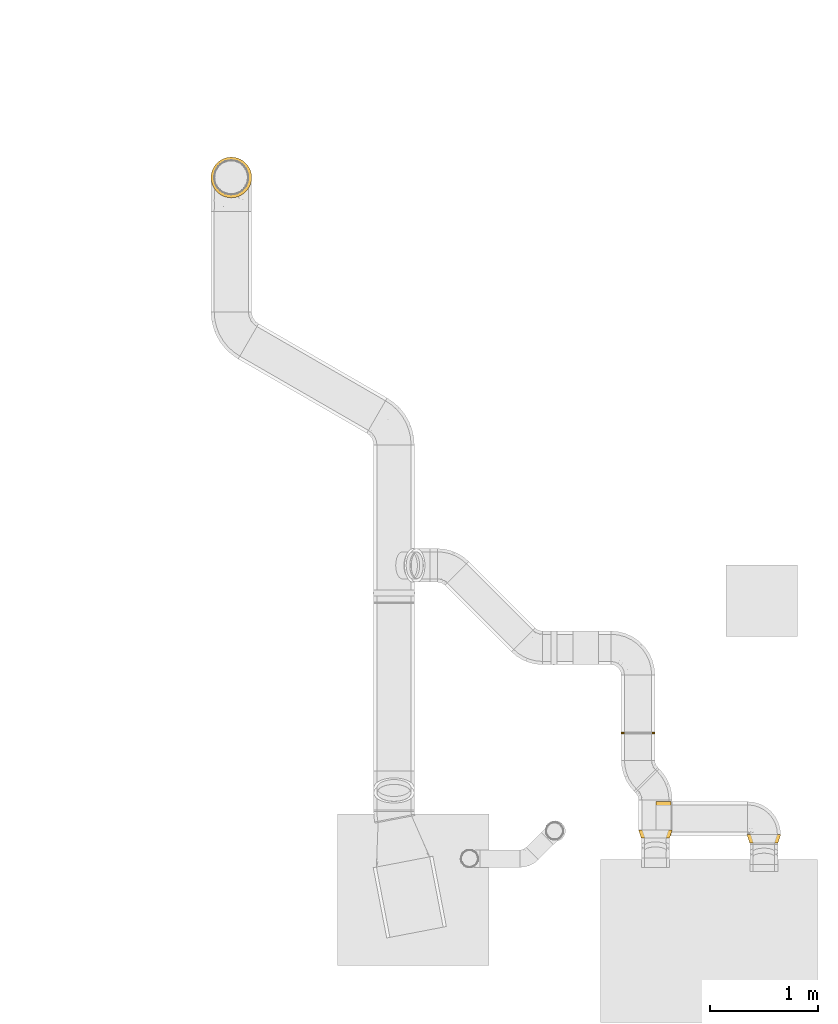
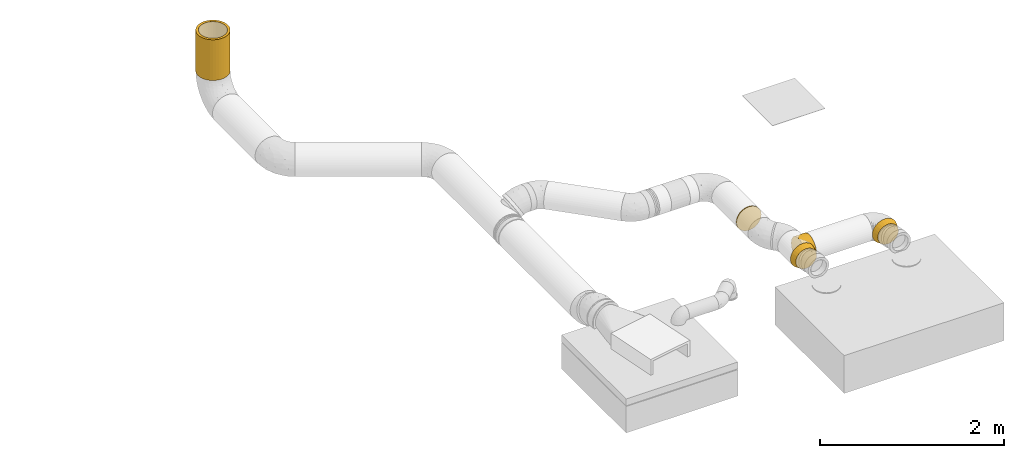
# One storey, part 7 of 21: 5 coverings.
"""IFC2X3 building model written with IfcOpenShell, lengths in millimetres."""

from ifc_helpers import new_model, entity, si_unit, converted_unit, derived_unit, direction, frame, origin_with_axes, place, context, subcontext, project, spatial, open_shell, faceted_brep, surface_model, source, transform, mapped, element, save


model = new_model("IFC2X3")

# Units and contexts
model_context = context("Model", 3, precision=0.01, world=frame((0.0, 4.29681676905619e-09, 0.0)), true_north=direction((4.01073788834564e-13, 1.0)))
plan_context = context("Plan", 3, precision=0.01, world=frame((0.0, 4.29681676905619e-09, 0.0)), true_north=direction((4.01073788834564e-13, 1.0)))
body_context = subcontext(model_context, "Body", "Model", "MODEL_VIEW")
ifc_project = project(units=[converted_unit("PLANEANGLEUNIT", "DEGREE", entity("IfcPositiveLengthMeasure", 0.0174532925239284), si_unit("PLANEANGLEUNIT", "RADIAN"), dimensions=[0, 0, 0, 0, 0, 0, 0]), si_unit("AREAUNIT", "SQUARE_METRE"), si_unit("LENGTHUNIT", "METRE", prefix="MILLI"), si_unit("MASSUNIT", "GRAM", prefix="KILO"), si_unit("POWERUNIT", "WATT"), si_unit("PRESSUREUNIT", "PASCAL"), si_unit("FORCEUNIT", "NEWTON", prefix="KILO"), si_unit("ELECTRICVOLTAGEUNIT", "VOLT"), si_unit("ELECTRICCURRENTUNIT", "AMPERE"), si_unit("THERMODYNAMICTEMPERATUREUNIT", "DEGREE_CELSIUS"), si_unit("TIMEUNIT", "SECOND"), si_unit("VOLUMEUNIT", "CUBIC_METRE"), derived_unit("LINEARVELOCITYUNIT", [(si_unit("LENGTHUNIT", "METRE"), 1), (si_unit("TIMEUNIT", "SECOND"), -1)]), derived_unit("VOLUMETRICFLOWRATEUNIT", [(si_unit("VOLUMEUNIT", "CUBIC_METRE"), 1), (si_unit("TIMEUNIT", "SECOND"), -1)]), derived_unit("THERMALTRANSMITTANCEUNIT", [(si_unit("POWERUNIT", "WATT"), 1), (si_unit("THERMODYNAMICTEMPERATUREUNIT", "KELVIN"), -1), (si_unit("AREAUNIT", "SQUARE_METRE"), -1)]), derived_unit("SOUNDPRESSUREUNIT", [(si_unit("PRESSUREUNIT", "PASCAL"), 1)])], contexts=[model_context, plan_context])

# Site, building, storey
site_placement = place(None, frame((0.0, -4.29681676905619e-09, 0.0), z_axis=(0.0, 0.0, 1.0), x_axis=(1.0, 0.0, 0.0)))
site = spatial("IfcSite", under=ifc_project, at=site_placement, Name="ENGM", CompositionType="ELEMENT")
building_placement = place(site_placement, frame((0.0, 4.29681676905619e-09, 0.0), z_axis=(0.0, 0.0, 1.0), x_axis=(1.0, 0.0, 0.0)))
building = spatial("IfcBuilding", under=site, at=building_placement, Name="TI", CompositionType="ELEMENT")
storey_placement = place(building_placement, frame((0.0, 0.0, 210900.0), z_axis=(0.0, 0.0, 1.0), x_axis=(1.0, 0.0, 0.0)))
storey = spatial("IfcBuildingStorey", under=building, at=storey_placement, Name="Nivå F", CompositionType="ELEMENT", Elevation=210900.0)

# Coverings
shared_shape_1 = source(origin_with_axes(), body_context, "Body", "SurfaceModel", [
    surface_model("IfcShellBasedSurfaceModel", [(20.0, 0.0, 155.0), (20.0, -40.11695, 149.7185), (20.0, -77.5, 134.23394), (20.0, -109.60155, 109.60155), (20.0, -134.23394, 77.5), (20.0, -149.7185, 40.11695), (20.0, 40.11695, 149.7185), (20.0, 109.60155, 109.60155), (20.0, 77.5, 134.23394), (20.0, 134.23394, 77.5), (20.0, 155.0, 0.0), (20.0, 149.7185, 40.11695), (20.0, -77.5, -134.23394), (20.0, -134.23394, -77.5), (20.0, -109.60155, -109.60155), (20.0, 77.5, -134.23394), (20.0, 0.0, -155.0), (20.0, 40.11695, -149.7185), (20.0, -155.0, 0.0), (20.0, -40.11695, -149.7185), (20.0, -149.7185, -40.11695), (20.0, 134.23394, -77.5), (20.0, 109.60155, -109.60155), (20.0, 149.7185, -40.11695), (-118.904, -77.5, -134.23394), (-118.904, 0.0, -155.0), (-118.904, -40.11695, -149.7185), (-118.904, -149.7185, -40.11695), (-118.904, -109.60155, -109.60155), (-118.904, 77.5, -134.23394), (-118.904, 155.0, 0.0), (-118.904, -134.23394, -77.5), (-118.904, 40.11695, -149.7185), (-118.904, 134.23394, -77.5), (-118.904, 109.60155, -109.60155), (-118.904, 149.7185, -40.11695), (-118.904, -155.0, 0.0), (-118.904, -149.7185, 40.11695), (-118.904, -134.23394, 77.5), (-118.904, -109.60155, 109.60155), (-118.904, -77.5, 134.23394), (-118.904, -40.11695, 149.7185), (-118.904, 0.0, 155.0), (-118.904, 40.11695, 149.7185), (-118.904, 134.23394, 77.5), (-118.904, 149.7185, 40.11695), (-118.904, 109.60155, 109.60155), (-118.904, 77.5, 134.23394)], [open_shell([[[0, 1, 2]], [[3, 4, 5]], [[6, 7, 8]], [[7, 6, 9]], [[9, 10, 11]], [[12, 13, 14]], [[15, 16, 17]], [[9, 0, 2]], [[9, 2, 3]], [[9, 3, 5]], [[9, 6, 0]], [[5, 10, 9]], [[5, 18, 10]], [[19, 18, 20]], [[12, 20, 13]], [[12, 19, 20]], [[18, 19, 16]], [[21, 15, 22]], [[23, 10, 21]], [[21, 10, 15]], [[16, 15, 18]], [[10, 18, 15]], [[24, 25, 26]], [[27, 24, 28]], [[29, 24, 30]], [[27, 28, 31]], [[27, 30, 24]], [[25, 29, 32]], [[25, 24, 29]], [[29, 33, 34]], [[29, 30, 33]], [[33, 30, 35]], [[27, 36, 37]], [[37, 38, 39]], [[27, 39, 30]], [[40, 41, 42]], [[30, 39, 40]], [[43, 40, 42]], [[30, 44, 45]], [[30, 40, 44]], [[46, 43, 47]], [[43, 46, 44]], [[40, 43, 44]], [[39, 27, 37]], [[18, 5, 37]], [[36, 18, 37]], [[4, 38, 37]], [[38, 4, 3]], [[5, 4, 37]], [[3, 39, 38]], [[40, 2, 1]], [[41, 1, 0]], [[39, 2, 40]], [[40, 1, 41]], [[0, 42, 41]], [[2, 39, 3]], [[43, 6, 8]], [[47, 8, 7]], [[0, 6, 42]], [[42, 6, 43]], [[8, 47, 43]], [[7, 46, 47]], [[44, 9, 11]], [[45, 11, 10]], [[46, 9, 44]], [[44, 11, 45]], [[10, 30, 45]], [[9, 46, 7]], [[35, 23, 21]], [[33, 21, 22]], [[10, 23, 30]], [[30, 23, 35]], [[21, 33, 35]], [[22, 34, 33]], [[29, 15, 17]], [[32, 17, 16]], [[34, 15, 29]], [[29, 17, 32]], [[16, 25, 32]], [[15, 34, 22]], [[26, 19, 12]], [[24, 12, 14]], [[16, 19, 25]], [[25, 19, 26]], [[12, 24, 26]], [[14, 28, 24]], [[31, 13, 20]], [[27, 20, 18]], [[28, 13, 31]], [[31, 20, 27]], [[18, 36, 27]], [[13, 28, 14]]])]),
])
covering_1_placement = place(storey_placement, frame((609854.51365, 691192.49978, 2600.0), z_axis=(0.0, 0.0, -1.0), x_axis=(1.0, 0.0, 0.0)))
element("IfcCovering", 1, at=covering_1_placement, inside=storey, Name="B-EI60", PredefinedType="INSULATION", context=body_context, shape_type="MappedRepresentation", body=[
    mapped(shared_shape_1, transform((0.0, 0.0, 0.0), scale=1.0)),
])
shared_shape_2 = source(origin_with_axes(), body_context, "Body", "SurfaceModel", [
    surface_model("IfcShellBasedSurfaceModel", [(10.0, 77.5, -134.23394), (10.0, 0.0, -155.0), (10.0, 40.11695, -149.7185), (10.0, -77.5, -134.23394), (10.0, -40.11695, -149.7185), (10.0, -134.23394, -77.5), (10.0, -109.60155, -109.60155), (10.0, 149.7185, 40.11695), (10.0, 134.23394, 77.5), (10.0, 109.60155, 109.60155), (10.0, -155.0, 0.0), (10.0, -134.23394, 77.5), (10.0, -149.7185, 40.11695), (10.0, -109.60155, 109.60155), (10.0, -40.11695, 149.7185), (10.0, -77.5, 134.23394), (0.0, 109.60155, 109.60155), (0.0, 134.23394, 77.5), (0.0, 149.7185, 40.11695), (0.0, -40.11695, 149.7185), (0.0, -109.60155, 109.60155), (0.0, -77.5, 134.23394), (0.0, -134.23394, 77.5), (0.0, -155.0, 0.0), (0.0, -149.7185, 40.11695), (0.0, 77.5, -134.23394), (0.0, 134.23394, -77.5), (0.0, 109.60155, -109.60155), (0.0, -134.23394, -77.5), (0.0, -77.5, -134.23394), (0.0, -109.60155, -109.60155), (0.0, 0.0, -155.0), (0.0, -40.11695, -149.7185), (0.0, 155.0, 0.0), (10.0, 155.0, 0.0), (0.0, 40.11695, 149.7185), (0.0, 0.0, 155.0), (10.0, 40.11695, 149.7185), (10.0, 77.5, 134.23394), (0.0, 77.5, 134.23394), (10.0, 0.0, 155.0), (10.0, -149.7185, -40.11695), (0.0, -149.7185, -40.11695), (0.0, 40.11695, -149.7185), (10.0, 109.60155, -109.60155), (10.0, 134.23394, -77.5), (10.0, 149.7185, -40.11695), (0.0, 149.7185, -40.11695)], [open_shell([[[0, 1, 2]], [[1, 3, 4]], [[3, 5, 6]], [[7, 8, 9]], [[10, 11, 12]], [[13, 14, 15]], [[16, 17, 18]], [[19, 20, 21]], [[22, 23, 24]], [[25, 26, 27]], [[28, 29, 30]], [[29, 31, 32]], [[7, 33, 18]], [[8, 18, 17]], [[34, 33, 7]], [[8, 7, 18]], [[9, 8, 17]], [[17, 16, 9]], [[35, 36, 37]], [[38, 39, 37]], [[39, 38, 16]], [[37, 39, 35]], [[36, 40, 37]], [[16, 38, 9]], [[14, 36, 19]], [[15, 19, 21]], [[40, 36, 14]], [[15, 14, 19]], [[13, 15, 21]], [[21, 20, 13]], [[11, 20, 22]], [[12, 22, 24]], [[11, 22, 12]], [[10, 12, 24]], [[23, 10, 24]], [[20, 11, 13]], [[41, 23, 42]], [[5, 42, 28]], [[10, 23, 41]], [[5, 41, 42]], [[6, 5, 28]], [[28, 30, 6]], [[3, 30, 29]], [[4, 29, 32]], [[3, 29, 4]], [[1, 4, 32]], [[31, 1, 32]], [[30, 3, 6]], [[2, 31, 43]], [[0, 43, 25]], [[1, 31, 2]], [[0, 2, 43]], [[44, 0, 25]], [[25, 27, 44]], [[45, 27, 26]], [[46, 26, 47]], [[45, 26, 46]], [[34, 46, 47]], [[33, 34, 47]], [[27, 45, 44]], [[38, 37, 40]], [[14, 13, 11]], [[36, 35, 39]], [[20, 19, 22]], [[22, 36, 39]], [[22, 39, 16]], [[22, 16, 18]], [[22, 19, 36]], [[18, 23, 22]], [[18, 33, 23]], [[43, 33, 47]], [[25, 47, 26]], [[25, 43, 47]], [[33, 43, 31]], [[42, 23, 28]], [[28, 23, 29]], [[31, 29, 33]], [[23, 33, 29]], [[46, 0, 44]], [[3, 0, 10]], [[46, 44, 45]], [[46, 10, 0]], [[1, 0, 3]], [[3, 10, 5]], [[5, 10, 41]], [[46, 34, 7]], [[46, 9, 10]], [[10, 9, 38]], [[14, 38, 40]], [[10, 38, 11]], [[38, 14, 11]], [[9, 46, 7]]])]),
])
covering_2_placement = place(storey_placement, frame((609569.51365, 691985.29135, 2600.0), z_axis=(0.0, 0.0, 1.0), x_axis=(0.0, -1.0, 0.0)))
element("IfcCovering", 2, at=covering_2_placement, inside=storey, Name="B-EI60", PredefinedType="INSULATION", context=body_context, shape_type="MappedRepresentation", body=[
    mapped(shared_shape_2, transform((0.0, 0.0, 0.0), scale=1.0)),
])
shared_shape_3 = source(origin_with_axes(), body_context, "Body", "SurfaceModel", [
    surface_model("IfcShellBasedSurfaceModel", [(0.0, -65.0, 112.5833), (0.0, -33.64648, 125.57036), (0.0, 0.0, 130.0), (75.0, 40.11695, 149.7185), (75.0, -40.11695, 149.7185), (75.0, -77.5, 134.23394), (75.0, -109.60155, 109.60155), (75.0, -134.23394, 77.5), (75.0, -149.7185, 40.11695), (75.0, 149.7185, -40.11695), (75.0, 77.5, 134.23394), (75.0, 0.0, 155.0), (75.0, 109.60155, 109.60155), (75.0, 134.23394, 77.5), (75.0, 149.7185, 40.11695), (75.0, -155.0, 0.0), (75.0, -149.7185, -40.11695), (75.0, -134.23394, -77.5), (75.0, -109.60155, -109.60155), (75.0, -77.5, -134.23394), (75.0, -40.11695, -149.7185), (75.0, 40.11695, -149.7185), (75.0, 0.0, -155.0), (75.0, 134.23394, -77.5), (75.0, 155.0, 0.0), (75.0, 109.60155, -109.60155), (75.0, 77.5, -134.23394), (0.0, 0.0, -130.0), (0.0, -130.0, 0.0), (0.0, 33.64648, 125.57036), (0.0, 130.0, 0.0), (0.0, 65.0, 112.5833), (0.0, 91.92389, 91.92389), (0.0, 112.5833, 65.0), (0.0, -91.92389, 91.92389), (0.0, -125.57036, 33.64648), (0.0, -112.5833, 65.0), (0.0, 125.57036, 33.64648), (0.0, 125.57036, -33.64648), (0.0, 112.5833, -65.0), (0.0, 91.92389, -91.92389), (0.0, 65.0, -112.5833), (0.0, 33.64648, -125.57036), (0.0, -91.92389, -91.92389), (0.0, -112.5833, -65.0), (0.0, -125.57036, -33.64648), (0.0, -65.0, -112.5833), (0.0, -33.64648, -125.57036)], [open_shell([[[0, 1, 2]], [[3, 4, 5]], [[6, 3, 5]], [[3, 7, 8]], [[6, 7, 3]], [[8, 9, 3]], [[3, 9, 10]], [[3, 11, 4]], [[12, 9, 13]], [[12, 10, 9]], [[14, 13, 9]], [[8, 15, 16]], [[17, 18, 8]], [[8, 18, 19]], [[9, 8, 20]], [[8, 19, 20]], [[21, 20, 22]], [[20, 23, 9]], [[24, 14, 9]], [[20, 25, 23]], [[20, 26, 25]], [[26, 20, 21]], [[8, 16, 17]], [[27, 28, 2]], [[2, 29, 30]], [[30, 29, 31]], [[32, 30, 31]], [[30, 32, 33]], [[2, 34, 0]], [[2, 35, 36]], [[2, 36, 34]], [[28, 35, 2]], [[33, 37, 30]], [[38, 27, 30]], [[39, 27, 38]], [[27, 40, 41]], [[27, 39, 40]], [[41, 42, 27]], [[43, 44, 28]], [[45, 28, 44]], [[46, 43, 28]], [[47, 46, 28]], [[28, 27, 47]], [[2, 30, 27]], [[17, 45, 44]], [[18, 17, 44]], [[15, 28, 16]], [[16, 28, 45]], [[45, 17, 16]], [[44, 43, 18]], [[47, 27, 20]], [[46, 47, 19]], [[19, 18, 46]], [[22, 20, 27]], [[19, 47, 20]], [[46, 18, 43]], [[26, 42, 41]], [[25, 26, 41]], [[22, 27, 21]], [[21, 27, 42]], [[42, 26, 21]], [[41, 40, 25]], [[38, 30, 9]], [[39, 38, 23]], [[23, 25, 39]], [[24, 9, 30]], [[23, 38, 9]], [[39, 25, 40]], [[13, 37, 33]], [[12, 13, 33]], [[24, 30, 14]], [[14, 30, 37]], [[37, 13, 14]], [[33, 32, 12]], [[29, 2, 3]], [[31, 29, 10]], [[10, 12, 31]], [[11, 3, 2]], [[10, 29, 3]], [[31, 12, 32]], [[5, 1, 0]], [[6, 5, 0]], [[11, 2, 4]], [[4, 2, 1]], [[1, 5, 4]], [[0, 34, 6]], [[35, 28, 8]], [[36, 35, 7]], [[7, 6, 36]], [[15, 8, 28]], [[7, 35, 8]], [[36, 6, 34]]])]),
])
covering_3_placement = place(storey_placement, frame((609729.51365, 691010.55674, 2600.0), z_axis=(0.0, 0.0, 1.0), x_axis=(0.0, 1.0, 0.0)))
element("IfcCovering", 3, at=covering_3_placement, inside=storey, Name="B-EI60", PredefinedType="INSULATION", context=body_context, shape_type="MappedRepresentation", body=[
    mapped(shared_shape_3, transform((0.0, 0.0, 0.0), scale=1.0)),
])
shared_shape_4 = source(origin_with_axes(), body_context, "Body", "SurfaceModel", [
    surface_model("IfcShellBasedSurfaceModel", [(0.0, -40.11695, 149.7185), (0.0, 149.7185, 40.11695), (0.0, -149.7185, -40.11695), (75.0, -130.00001, 0.0), (75.0, -33.64648, 125.57036), (75.0, -65.0, 112.5833), (75.0, -91.92389, 91.92389), (75.0, -112.5833, 65.0), (75.0, -125.57037, 33.64648), (75.0, 0.0, 130.0), (75.0, 65.0, 112.5833), (75.0, 33.64648, 125.57036), (75.0, 91.92389, 91.92389), (75.0, 112.58329, 65.0), (75.0, 125.57036, 33.64648), (75.0, 130.0, 0.0), (75.0, 0.0, -130.0), (75.0, -125.57037, -33.64648), (75.0, -112.5833, -65.0), (75.0, -91.92389, -91.92389), (75.0, -65.0, -112.5833), (75.0, -33.64648, -125.57036), (75.0, 112.58329, -65.0), (75.0, 125.57036, -33.64648), (75.0, 91.92389, -91.92389), (75.0, 65.0, -112.5833), (75.0, 33.64648, -125.57036), (0.0, 0.0, 155.0), (0.0, 40.11695, 149.7185), (0.0, 77.5, 134.23394), (0.0, 109.60155, 109.60155), (0.0, 134.23394, 77.5), (0.0, -109.60155, 109.60155), (0.0, -134.23394, 77.5), (0.0, -77.5, 134.23394), (0.0, -149.7185, 40.11695), (0.0, -155.0, 0.0), (0.0, 149.7185, -40.11695), (0.0, 134.23394, -77.5), (0.0, 109.60155, -109.60155), (0.0, 40.11695, -149.7185), (0.0, 77.5, -134.23394), (0.0, -134.23394, -77.5), (0.0, -109.60155, -109.60155), (0.0, -77.5, -134.23394), (0.0, -40.11695, -149.7185), (0.0, 0.0, -155.0), (0.0, 155.0, 0.0)], [open_shell([[[0, 1, 2]], [[3, 4, 5]], [[3, 5, 6]], [[7, 8, 3]], [[7, 3, 6]], [[4, 3, 9]], [[9, 10, 11]], [[10, 9, 12]], [[9, 13, 12]], [[13, 9, 14]], [[14, 9, 15]], [[9, 3, 16]], [[16, 17, 18]], [[16, 18, 19]], [[20, 21, 16]], [[20, 16, 19]], [[16, 15, 9]], [[15, 22, 23]], [[22, 15, 24]], [[15, 25, 24]], [[25, 15, 26]], [[15, 16, 26]], [[16, 3, 17]], [[0, 27, 28]], [[29, 0, 28]], [[0, 30, 31]], [[30, 0, 29]], [[1, 0, 31]], [[32, 2, 33]], [[32, 34, 2]], [[35, 2, 36]], [[33, 2, 35]], [[2, 34, 0]], [[37, 38, 1]], [[1, 38, 39]], [[40, 1, 41]], [[1, 39, 41]], [[40, 2, 1]], [[40, 42, 2]], [[40, 43, 42]], [[40, 44, 43]], [[45, 44, 40]], [[40, 46, 45]], [[47, 37, 1]], [[21, 20, 44]], [[16, 21, 45]], [[45, 46, 16]], [[43, 44, 20]], [[45, 21, 44]], [[20, 19, 43]], [[43, 18, 42]], [[42, 18, 17]], [[42, 17, 2]], [[3, 36, 2]], [[17, 3, 2]], [[18, 43, 19]], [[23, 22, 38]], [[15, 23, 37]], [[37, 47, 15]], [[39, 38, 22]], [[37, 23, 38]], [[22, 24, 39]], [[39, 25, 41]], [[41, 25, 26]], [[41, 26, 40]], [[16, 46, 40]], [[26, 16, 40]], [[25, 39, 24]], [[11, 10, 29]], [[9, 11, 28]], [[28, 27, 9]], [[30, 29, 10]], [[28, 11, 29]], [[10, 12, 30]], [[30, 13, 31]], [[31, 13, 14]], [[31, 14, 1]], [[15, 47, 1]], [[14, 15, 1]], [[13, 30, 12]], [[8, 7, 33]], [[3, 8, 35]], [[35, 36, 3]], [[32, 33, 7]], [[35, 8, 33]], [[7, 6, 32]], [[32, 5, 34]], [[34, 5, 4]], [[34, 4, 0]], [[9, 27, 0]], [[4, 9, 0]], [[5, 32, 6]]])]),
])
covering_4_placement = place(storey_placement, frame((610729.51365, 691042.49978, 2600.0), z_axis=(0.0, 0.0, 1.0), x_axis=(0.0, -1.0, 0.0)))
element("IfcCovering", 4, at=covering_4_placement, inside=storey, Name="B-EI60", PredefinedType="INSULATION", context=body_context, shape_type="MappedRepresentation", body=[
    mapped(shared_shape_4, transform((0.0, 0.0, 0.0), scale=1.0)),
])
covering_5_placement = place(storey_placement, frame((605819.77046, 697101.72271, 4929.75729000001), z_axis=(1.0, 0.0, 0.0), x_axis=(0.0, 0.0, -1.0)))
element("IfcCovering", 5, at=covering_5_placement, inside=storey, Name="B-EI60", PredefinedType="INSULATION", context=body_context, shape_type="Brep", body=[
    faceted_brep([(1629.75729000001, 155.107221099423, -27.3495879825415), (1629.75729000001, 157.5, 0.0), (2168.0, 157.5, 0.0), (2168.0, 155.107221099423, -27.3495879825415), (1629.75729000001, 148.001587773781, -53.8681725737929), (2168.0, 148.001587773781, -53.8681725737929), (1629.75729000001, 136.399001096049, -78.7500000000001), (2168.0, 136.399001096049, -78.7500000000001), (1629.75729000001, 120.651999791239, -101.23904852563), (2168.0, 120.651999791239, -101.23904852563), (1629.75729000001, 101.23904852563, -120.651999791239), (2168.0, 101.23904852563, -120.651999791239), (1629.75729000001, 78.75, -136.399001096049), (2168.0, 78.75, -136.399001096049), (1629.75729000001, 53.8681725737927, -148.001587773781), (2168.0, 53.8681725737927, -148.001587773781), (1629.75729000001, 27.3495879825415, -155.107221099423), (2168.0, 27.3495879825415, -155.107221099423), (1629.75729000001, -2.89322806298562e-14, -157.5), (2168.0, -2.89322806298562e-14, -157.5), (1629.75729000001, -27.3495879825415, -155.107221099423), (2168.0, -27.3495879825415, -155.107221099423), (1629.75729000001, -53.8681725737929, -148.001587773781), (2168.0, -53.8681725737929, -148.001587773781), (1629.75729000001, -78.7500000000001, -136.399001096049), (2168.0, -78.7500000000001, -136.399001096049), (1629.75729000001, -101.23904852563, -120.651999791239), (2168.0, -101.23904852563, -120.651999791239), (1629.75729000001, -120.651999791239, -101.23904852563), (2168.0, -120.651999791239, -101.23904852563), (1629.75729000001, -136.399001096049, -78.75), (2168.0, -136.399001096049, -78.75), (1629.75729000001, -148.001587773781, -53.8681725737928), (2168.0, -148.001587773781, -53.8681725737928), (1629.75729000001, -155.107221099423, -27.3495879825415), (2168.0, -155.107221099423, -27.3495879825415), (1629.75729000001, -157.5, 1.92881870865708e-14), (2168.0, -157.5, 1.92881870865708e-14), (1629.75729000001, -155.107221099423, 27.3495879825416), (2168.0, -155.107221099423, 27.3495879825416), (1629.75729000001, -148.001587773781, 53.8681725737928), (2168.0, -148.001587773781, 53.8681725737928), (1629.75729000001, -136.399001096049, 78.75), (2168.0, -136.399001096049, 78.75), (1629.75729000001, -120.651999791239, 101.23904852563), (2168.0, -120.651999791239, 101.23904852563), (1629.75729000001, -101.23904852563, 120.651999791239), (2168.0, -101.23904852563, 120.651999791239), (1629.75729000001, -78.75, 136.399001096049), (2168.0, -78.75, 136.399001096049), (1629.75729000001, -53.8681725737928, 148.001587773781), (2168.0, -53.8681725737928, 148.001587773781), (1629.75729000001, -27.3495879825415, 155.107221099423), (2168.0, -27.3495879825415, 155.107221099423), (1629.75729000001, 9.64409354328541e-15, 157.5), (2168.0, 9.64409354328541e-15, 157.5), (1629.75729000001, 27.3495879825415, 155.107221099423), (2168.0, 27.3495879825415, 155.107221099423), (1629.75729000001, 53.8681725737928, 148.001587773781), (2168.0, 53.8681725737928, 148.001587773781), (1629.75729000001, 78.75, 136.399001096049), (2168.0, 78.75, 136.399001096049), (1629.75729000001, 101.23904852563, 120.651999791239), (2168.0, 101.23904852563, 120.651999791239), (1629.75729000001, 120.651999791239, 101.23904852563), (2168.0, 120.651999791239, 101.23904852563), (1629.75729000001, 136.399001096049, 78.75), (2168.0, 136.399001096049, 78.75), (1629.75729000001, 148.001587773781, 53.8681725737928), (2168.0, 148.001587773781, 53.8681725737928), (1629.75729000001, 155.107221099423, 27.3495879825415), (2168.0, 155.107221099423, 27.3495879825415), (1629.75729000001, 187.5, 0.0), (1629.75729000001, 184.651453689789, -32.5590333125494), (2168.0, 184.651453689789, -32.5590333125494), (2168.0, 187.5, 0.0), (1629.75729000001, 184.651453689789, 32.5590333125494), (2168.0, 184.651453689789, 32.5590333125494), (1629.75729000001, 176.192366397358, 64.1287768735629), (2168.0, 176.192366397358, 64.1287768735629), (1629.75729000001, 162.379763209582, 93.75), (2168.0, 162.379763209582, 93.75), (1629.75729000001, 143.633333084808, 120.522676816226), (2168.0, 143.633333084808, 120.522676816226), (1629.75729000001, 120.522676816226, 143.633333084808), (2168.0, 120.522676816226, 143.633333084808), (1629.75729000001, 93.75, 162.379763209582), (2168.0, 93.75, 162.379763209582), (1629.75729000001, 64.1287768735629, 176.192366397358), (2168.0, 64.1287768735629, 176.192366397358), (1629.75729000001, 32.5590333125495, 184.651453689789), (2168.0, 32.5590333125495, 184.651453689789), (1629.75729000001, 1.14810637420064e-14, 187.5), (2168.0, 1.14810637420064e-14, 187.5), (1629.75729000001, -32.5590333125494, 184.651453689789), (2168.0, -32.5590333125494, 184.651453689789), (1629.75729000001, -64.1287768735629, 176.192366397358), (2168.0, -64.1287768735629, 176.192366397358), (1629.75729000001, -93.75, 162.379763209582), (2168.0, -93.75, 162.379763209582), (1629.75729000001, -120.522676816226, 143.633333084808), (2168.0, -120.522676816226, 143.633333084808), (1629.75729000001, -143.633333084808, 120.522676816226), (2168.0, -143.633333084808, 120.522676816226), (1629.75729000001, -162.379763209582, 93.75), (2168.0, -162.379763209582, 93.75), (1629.75729000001, -176.192366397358, 64.1287768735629), (2168.0, -176.192366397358, 64.1287768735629), (1629.75729000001, -184.651453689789, 32.5590333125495), (2168.0, -184.651453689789, 32.5590333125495), (1629.75729000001, -187.5, 2.29621274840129e-14), (2168.0, -187.5, 2.29621274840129e-14), (1629.75729000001, -184.651453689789, -32.5590333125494), (2168.0, -184.651453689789, -32.5590333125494), (1629.75729000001, -176.192366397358, -64.1287768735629), (2168.0, -176.192366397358, -64.1287768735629), (1629.75729000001, -162.379763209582, -93.7499999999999), (2168.0, -162.379763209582, -93.7499999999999), (1629.75729000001, -143.633333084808, -120.522676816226), (2168.0, -143.633333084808, -120.522676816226), (1629.75729000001, -120.522676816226, -143.633333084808), (2168.0, -120.522676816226, -143.633333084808), (1629.75729000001, -93.7500000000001, -162.379763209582), (2168.0, -93.7500000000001, -162.379763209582), (1629.75729000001, -64.128776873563, -176.192366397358), (2168.0, -64.128776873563, -176.192366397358), (1629.75729000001, -32.5590333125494, -184.651453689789), (2168.0, -32.5590333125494, -184.651453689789), (1629.75729000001, -3.44431912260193e-14, -187.5), (2168.0, -3.44431912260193e-14, -187.5), (1629.75729000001, 32.5590333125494, -184.651453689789), (2168.0, 32.5590333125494, -184.651453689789), (1629.75729000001, 64.1287768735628, -176.192366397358), (2168.0, 64.1287768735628, -176.192366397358), (1629.75729000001, 93.75, -162.379763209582), (2168.0, 93.75, -162.379763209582), (1629.75729000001, 120.522676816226, -143.633333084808), (2168.0, 120.522676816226, -143.633333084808), (1629.75729000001, 143.633333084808, -120.522676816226), (2168.0, 143.633333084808, -120.522676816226), (1629.75729000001, 162.379763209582, -93.7500000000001), (2168.0, 162.379763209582, -93.7500000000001), (1629.75729000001, 176.192366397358, -64.128776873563), (2168.0, 176.192366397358, -64.128776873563)], [[[0, 1, 2, 3]], [[4, 0, 3, 5]], [[6, 4, 5, 7]], [[8, 6, 7, 9]], [[10, 8, 9, 11]], [[12, 10, 11, 13]], [[14, 12, 13, 15]], [[16, 14, 15, 17]], [[18, 16, 17, 19]], [[20, 18, 19, 21]], [[22, 20, 21, 23]], [[24, 22, 23, 25]], [[26, 24, 25, 27]], [[28, 26, 27, 29]], [[30, 28, 29, 31]], [[32, 30, 31, 33]], [[34, 32, 33, 35]], [[36, 34, 35, 37]], [[38, 36, 37, 39]], [[40, 38, 39, 41]], [[42, 40, 41, 43]], [[44, 42, 43, 45]], [[46, 44, 45, 47]], [[48, 46, 47, 49]], [[50, 48, 49, 51]], [[52, 50, 51, 53]], [[54, 52, 53, 55]], [[56, 54, 55, 57]], [[58, 56, 57, 59]], [[60, 58, 59, 61]], [[62, 60, 61, 63]], [[64, 62, 63, 65]], [[66, 64, 65, 67]], [[68, 66, 67, 69]], [[70, 68, 69, 71]], [[1, 70, 71, 2]], [[72, 73, 74, 75]], [[76, 72, 75, 77]], [[78, 76, 77, 79]], [[80, 78, 79, 81]], [[82, 80, 81, 83]], [[84, 82, 83, 85]], [[86, 84, 85, 87]], [[88, 86, 87, 89]], [[90, 88, 89, 91]], [[92, 90, 91, 93]], [[94, 92, 93, 95]], [[96, 94, 95, 97]], [[98, 96, 97, 99]], [[100, 98, 99, 101]], [[102, 100, 101, 103]], [[104, 102, 103, 105]], [[106, 104, 105, 107]], [[108, 106, 107, 109]], [[110, 108, 109, 111]], [[112, 110, 111, 113]], [[114, 112, 113, 115]], [[116, 114, 115, 117]], [[118, 116, 117, 119]], [[120, 118, 119, 121]], [[122, 120, 121, 123]], [[124, 122, 123, 125]], [[126, 124, 125, 127]], [[128, 126, 127, 129]], [[130, 128, 129, 131]], [[132, 130, 131, 133]], [[134, 132, 133, 135]], [[136, 134, 135, 137]], [[138, 136, 137, 139]], [[140, 138, 139, 141]], [[142, 140, 141, 143]], [[73, 142, 143, 74]], [[75, 74, 143, 141, 139, 137, 135, 133, 131, 129, 127, 125, 123, 121, 119, 117, 115, 113, 111, 109, 107, 105, 103, 101, 99, 97, 95, 93, 91, 89, 87, 85, 83, 81, 79, 77], [2, 71, 69, 67, 65, 63, 61, 59, 57, 55, 53, 51, 49, 47, 45, 43, 41, 39, 37, 35, 33, 31, 29, 27, 25, 23, 21, 19, 17, 15, 13, 11, 9, 7, 5, 3]], [[76, 78, 80, 82, 84, 86, 88, 90, 92, 94, 96, 98, 100, 102, 104, 106, 108, 110, 112, 114, 116, 118, 120, 122, 124, 126, 128, 130, 132, 134, 136, 138, 140, 142, 73, 72], [4, 6, 8, 10, 12, 14, 16, 18, 20, 22, 24, 26, 28, 30, 32, 34, 36, 38, 40, 42, 44, 46, 48, 50, 52, 54, 56, 58, 60, 62, 64, 66, 68, 70, 1, 0]]], orient=[[False], [False], [False], [False], [False], [False], [False], [False], [False], [False], [False], [False], [False], [False], [False], [False], [False], [False], [False], [False], [False], [False], [False], [False], [False], [False], [False], [False], [False], [False], [False], [False], [False], [False], [False], [False], [False], [False], [False], [False], [False], [False], [False], [False], [False], [False], [False], [False], [False], [False], [False], [False], [False], [False], [False], [False], [False], [False], [False], [False], [False], [False], [False], [False], [False], [False], [False], [False], [False], [False], [False], [False], [False, False], [False, False]]),
])

save(model, "model.ifc")
